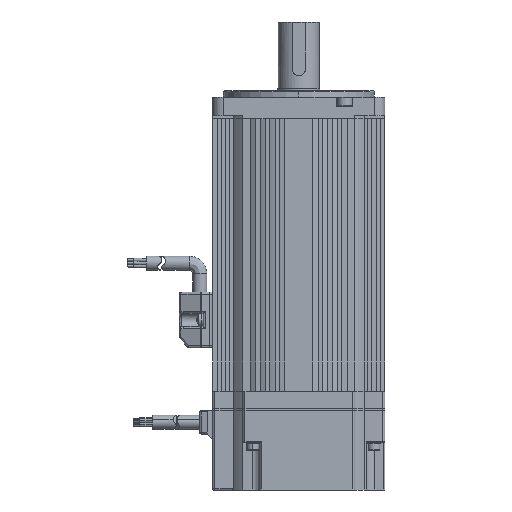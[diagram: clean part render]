
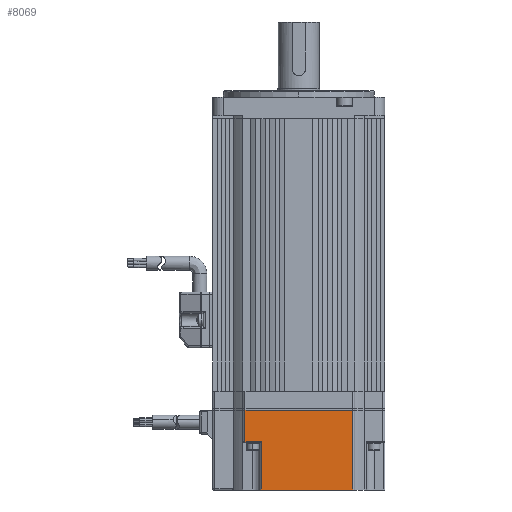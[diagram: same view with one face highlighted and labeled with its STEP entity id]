
A CAD part, left-side view. The second image highlights one B-rep face of the part: STEP entity #8069.
In plain terms, the highlighted planar face has unit normal (-1, 0, 0) as drawn and (1, 0, 0) by its records, which use the part's own axes.
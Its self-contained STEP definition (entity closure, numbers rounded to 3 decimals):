
#1374 = VERTEX_POINT ( 'NONE', #9981 ) ;
#1560 = LINE ( 'NONE', #5271, #17980 ) ;
#2033 = ORIENTED_EDGE ( 'NONE', *, *, #20097, .F. ) ;
#2386 = FACE_OUTER_BOUND ( 'NONE', #7256, .T. ) ;
#3405 = LINE ( 'NONE', #14606, #37277 ) ;
#3960 = CARTESIAN_POINT ( 'NONE',  ( 40., 25., 14.5 ) ) ;
#4157 = ORIENTED_EDGE ( 'NONE', *, *, #33072, .F. ) ;
#5271 = CARTESIAN_POINT ( 'NONE',  ( 40., 0., 37. ) ) ;
#5308 = DIRECTION ( 'NONE',  ( 0., -1., 0. ) ) ;
#7256 = EDGE_LOOP ( 'NONE', ( #36063, #31348, #2033, #37102, #32641, #4157 ) ) ;
#8069 = ADVANCED_FACE ( 'NONE', ( #2386 ), #23357, .F. ) ;
#9256 = DIRECTION ( 'NONE',  ( 0., 0., 1. ) ) ;
#9743 = AXIS2_PLACEMENT_3D ( 'NONE', #36752, #17068, #40012 ) ;
#9981 = CARTESIAN_POINT ( 'NONE',  ( 40., -25., 0. ) ) ;
#12038 = VECTOR ( 'NONE', #13743, 1000. ) ;
#12697 = LINE ( 'NONE', #25543, #20347 ) ;
#12974 = CARTESIAN_POINT ( 'NONE',  ( 40., 17.422, 14.5 ) ) ;
#13743 = DIRECTION ( 'NONE',  ( 0., 0., -1. ) ) ;
#13886 = LINE ( 'NONE', #26916, #30323 ) ;
#14606 = CARTESIAN_POINT ( 'NONE',  ( 40., 17.422, 37. ) ) ;
#14766 = CARTESIAN_POINT ( 'NONE',  ( 40., 25., 0. ) ) ;
#15457 = VERTEX_POINT ( 'NONE', #3960 ) ;
#17068 = DIRECTION ( 'NONE',  ( -1., 0., 0. ) ) ;
#17980 = VECTOR ( 'NONE', #31729, 1000. ) ;
#20097 = EDGE_CURVE ( 'NONE', #34765, #21508, #1560, .T. ) ;
#20347 = VECTOR ( 'NONE', #9256, 1000. ) ;
#21195 = DIRECTION ( 'NONE',  ( 0., 0., -1. ) ) ;
#21508 = VERTEX_POINT ( 'NONE', #25026 ) ;
#21723 = CARTESIAN_POINT ( 'NONE',  ( 40., -25., 37. ) ) ;
#21797 = LINE ( 'NONE', #28276, #30575 ) ;
#22610 = VERTEX_POINT ( 'NONE', #14766 ) ;
#23357 = PLANE ( 'NONE',  #9743 ) ;
#25026 = CARTESIAN_POINT ( 'NONE',  ( 40., 17.422, 37. ) ) ;
#25543 = CARTESIAN_POINT ( 'NONE',  ( 40., -25., 37. ) ) ;
#26916 = CARTESIAN_POINT ( 'NONE',  ( 40., 26., 14.5 ) ) ;
#28276 = CARTESIAN_POINT ( 'NONE',  ( 40., 26., 0. ) ) ;
#30100 = CARTESIAN_POINT ( 'NONE',  ( 40., 25., 37. ) ) ;
#30281 = DIRECTION ( 'NONE',  ( 0., 1., 0. ) ) ;
#30323 = VECTOR ( 'NONE', #30281, 1000. ) ;
#30575 = VECTOR ( 'NONE', #5308, 1000. ) ;
#31348 = ORIENTED_EDGE ( 'NONE', *, *, #41137, .F. ) ;
#31729 = DIRECTION ( 'NONE',  ( 0., 1., 0. ) ) ;
#32641 = ORIENTED_EDGE ( 'NONE', *, *, #38647, .F. ) ;
#33072 = EDGE_CURVE ( 'NONE', #15457, #22610, #39200, .T. ) ;
#34765 = VERTEX_POINT ( 'NONE', #21723 ) ;
#35572 = EDGE_CURVE ( 'NONE', #36271, #15457, #13886, .T. ) ;
#36063 = ORIENTED_EDGE ( 'NONE', *, *, #35572, .F. ) ;
#36271 = VERTEX_POINT ( 'NONE', #12974 ) ;
#36752 = CARTESIAN_POINT ( 'NONE',  ( 40., 26., 37. ) ) ;
#37102 = ORIENTED_EDGE ( 'NONE', *, *, #40483, .F. ) ;
#37277 = VECTOR ( 'NONE', #21195, 1000. ) ;
#38647 = EDGE_CURVE ( 'NONE', #22610, #1374, #21797, .T. ) ;
#39200 = LINE ( 'NONE', #30100, #12038 ) ;
#40012 = DIRECTION ( 'NONE',  ( 0., 0., 1. ) ) ;
#40483 = EDGE_CURVE ( 'NONE', #1374, #34765, #12697, .T. ) ;
#41137 = EDGE_CURVE ( 'NONE', #21508, #36271, #3405, .T. ) ;
